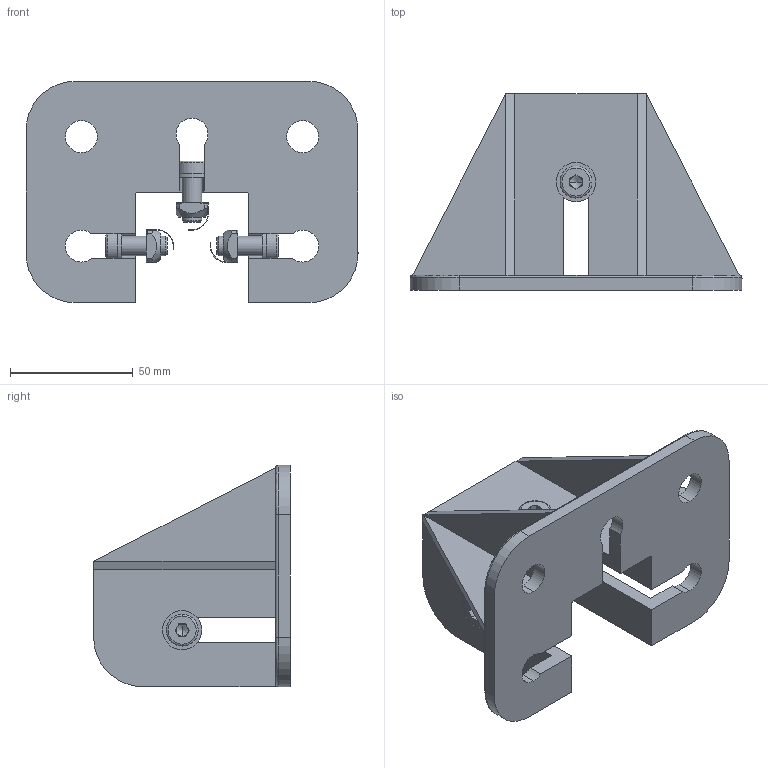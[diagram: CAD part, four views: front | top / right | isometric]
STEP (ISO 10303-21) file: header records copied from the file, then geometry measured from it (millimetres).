
FILE_DESCRIPTION (( 'STEP AP214' ), '1' );
FILE_NAME ('1.5039 Lattiakiinnike 45 avoin.STEP', '2025-09-16T09:53:29', ( '' ), ( '' ), 'SwSTEP 2.0', 'SolidWorks 2025', '' );
FILE_SCHEMA (( 'AUTOMOTIVE_DESIGN' ));
Length unit declared in the file: millimetre
Products named in the file (1): 1.5039 Lattiakiinnike 45 avoin
Bounding box: 135 x 80 x 90 mm (x, y, z)
Volume: 132326.4 mm3; surface area: 60471.7 mm2
Topology: 10 solids, 10 shells, 265 faces, 657 edges, 406 vertices
Faces by surface type: plane 153, cylinder 69, cone 27, torus 12, bspline 4
Entity records: 11297 total; most frequent: CARTESIAN_POINT 1962, DIRECTION 1315, ORIENTED_EDGE 1302, EDGE_CURVE 651, AXIS2_PLACEMENT_3D 463, VERTEX_POINT 406, LINE 389, VECTOR 389
